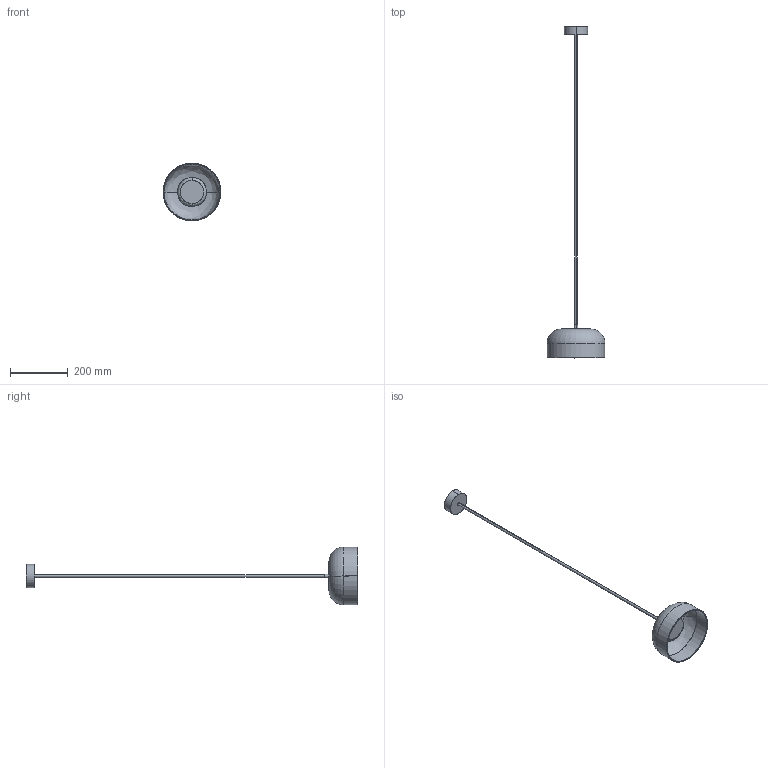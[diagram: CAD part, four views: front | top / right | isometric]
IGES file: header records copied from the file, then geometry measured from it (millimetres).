
Start section: SolidWorks IGES file using analytic representation for surfaces
Global section: file name: C:\Users\Agus\Downloads\IPON_C1316-1.IGS; native system: SolidWorks 2018; preprocessor: SolidWorks 2018; author: Agus; date: 231018.101508; units: millimetre
Bounding box: 200 x 1147 x 200 mm (x, y, z)
Surface area: 279220.7 mm2 (no closed solid volume)
Topology: 0 solids, 0 shells, 41 faces, 1008 edges, 1008 vertices
Faces by surface type: bspline 23, revolution 18
